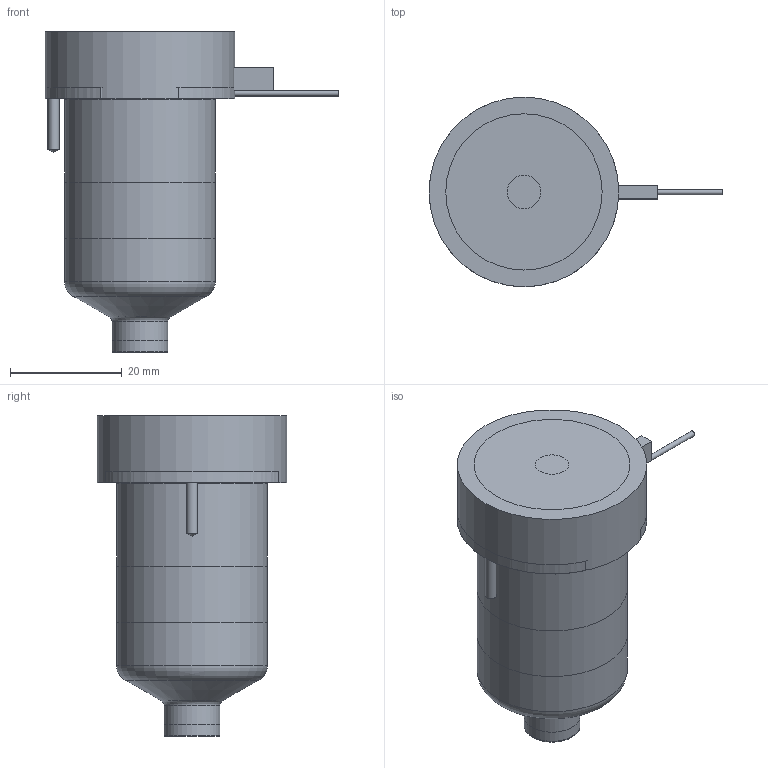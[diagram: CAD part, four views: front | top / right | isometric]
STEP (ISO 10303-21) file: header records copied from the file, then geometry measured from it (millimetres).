
FILE_DESCRIPTION(/* description */ (''),/* implementation_level */ '2;1');
FILE_NAME(/* name */ 'BXTBN-BXIBN-BXOBN13045_250C_b',/* time_stamp */ '2007-01-18T09:57:48+13:00',/* author */ (''),/* organization */ (''),/* preprocessor_version */ 'ST-DEVELOPER v9',/* originating_system */ 'UGS - NX 4.0',/* authorisation */ '');
FILE_SCHEMA (('CONFIG_CONTROL_DESIGN'));
Length unit declared in the file: millimetre
Products named in the file (1): BXTBN-BXIBN-BXOBN13045_250C_b
Bounding box: 52.65 x 34 x 57.35 mm (x, y, z)
Volume: 62541.2 mm3; surface area: 14907.9 mm2
Topology: 6 solids, 6 shells, 73 faces, 141 edges, 91 vertices
Faces by surface type: plane 34, cylinder 23, cone 8, torus 7, bspline 1
Full cylindrical faces by diameter (mm): 0.9 x1, 1 x3, 2 x2, 6 x1, 9.61 x1, 10.01 x2, 12.6 x1, 22.2 x1, 27 x2, 34 x1
Entity records: 1806 total; most frequent: CARTESIAN_POINT 357, DIRECTION 304, ORIENTED_EDGE 210, AXIS2_PLACEMENT_3D 134, EDGE_LOOP 112, EDGE_CURVE 105, VERTEX_POINT 84, ADVANCED_FACE 73
